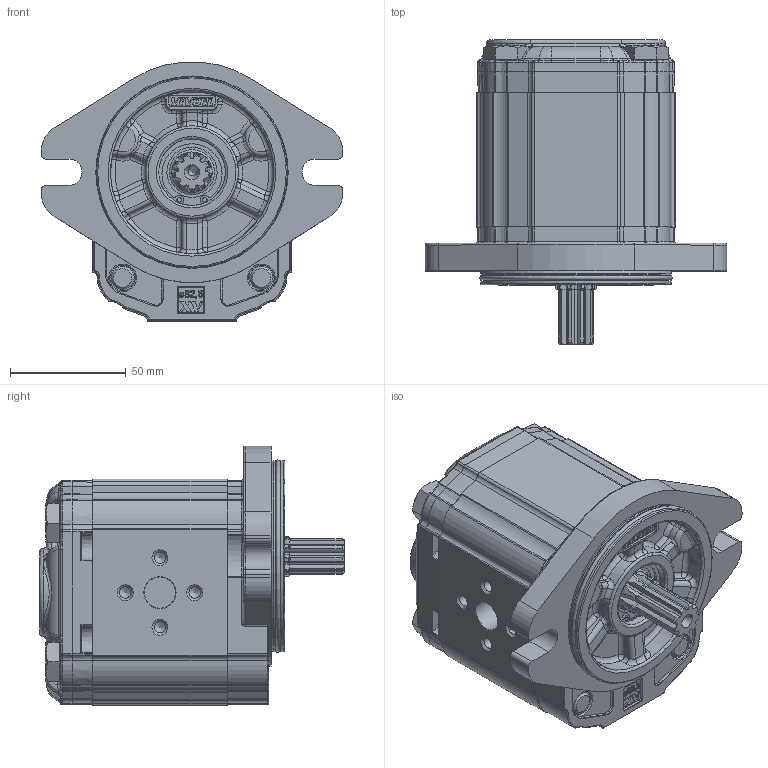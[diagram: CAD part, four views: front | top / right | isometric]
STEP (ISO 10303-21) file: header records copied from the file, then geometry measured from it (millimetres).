
FILE_DESCRIPTION(/* description */ ('Unknown'),/* implementation_level */ '2;1');
FILE_NAME(/* name */ 'X2P4751IOOA',/* time_stamp */ '2020-09-21T09:17:58+02:00',/* author */ ('Unknown'),/* organization */ ('Unknown'),/* preprocessor_version */ 'ST-DEVELOPER v16.7',/* originating_system */ 'DEX',/* authorisation */ $);
FILE_SCHEMA (('CONFIG_CONTROL_DESIGN','AUTOMOTIVE_DESIGN {1 0 10303 214 3 1 1}'));
Products named in the file (5): X2P4751IOOA; X2P51; 2I; X2OOH58; XP219-A
Assembly tree (4 placements, depth 2):
  X2P4751IOOA
    X2P51
    2I
    X2OOH58
    XP219-A
Bounding box: 130.38 x 131.7 x 112.3 mm (x, y, z)
Volume: 739648.3 mm3; surface area: 115406.3 mm2
Topology: 4 solids, 5 shells, 2223 faces, 5483 edges, 3330 vertices
Faces by surface type: cylinder 661, plane 591, bspline 570, torus 247, cone 116, sphere 38
Full cylindrical faces by diameter (mm): 2 x2, 4.917 x4, 5 x4, 10 x4, 10.5 x4, 11 x2, 11.5 x4, 13.5 x2, 16 x4, 17.42 x1, 17.48 x2, 18.724 x1, 20.595 x1, 21.741 x1, 25.834 x1, 28.56 x1, 28.57 x1, 28.8 x1, 30.4 x1, 79.6 x2, 82.5 x2
Entity records: 101723 total; most frequent: CARTESIAN_POINT 39174, ORIENTED_EDGE 10532, DIRECTION 8859, EDGE_CURVE 5266, AXIS2_PLACEMENT_3D 3383, VERTEX_POINT 3266, FACE_BOUND 2446, EDGE_LOOP 2436
